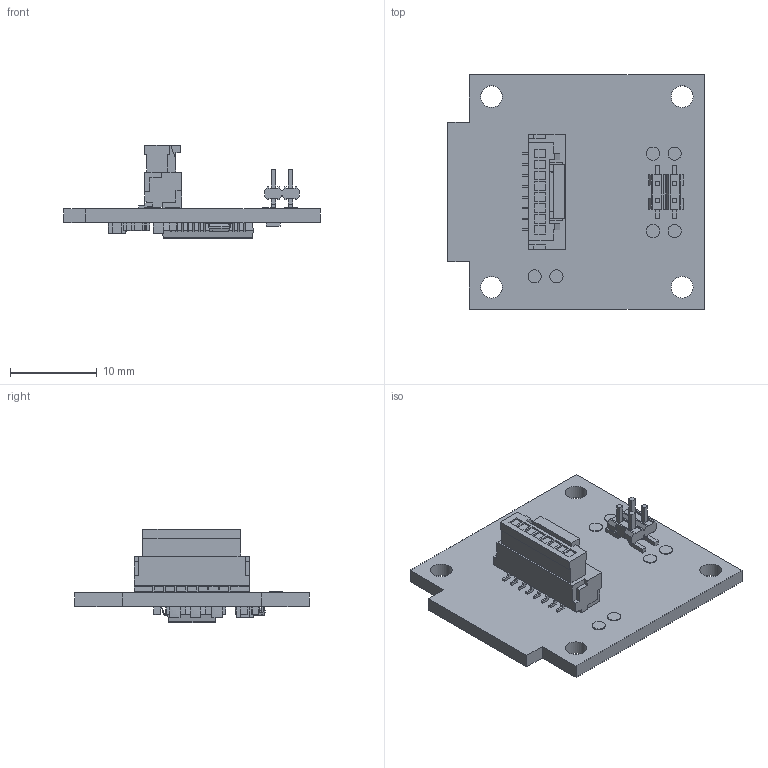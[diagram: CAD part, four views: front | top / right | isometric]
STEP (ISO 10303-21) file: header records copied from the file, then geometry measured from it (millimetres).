
FILE_DESCRIPTION(('Open CASCADE Model'),'2;1');
FILE_NAME('Open CASCADE Shape Model','2025-12-10T15:41:22',('Author'),( 'Open CASCADE'),'Open CASCADE STEP processor 7.5','Open CASCADE 7.5' ,'Unknown');
FILE_SCHEMA(('AUTOMOTIVE_DESIGN { 1 0 10303 214 1 1 1 1 }'));
Length unit declared in the file: millimetre
Products named in the file (70): PCB; Board; Open CASCADE STEP translator 7.5 1.1.1; TPT101; TP-60mil; TPT100; J100; 57202f5102alf; CN2; BM08B-GHS-TBT + GHR-08V-S; bm08b-ghs-tbt; GHR-08V-S; R101; cr0603; C114; CAPC1608X09; C113; C112; C111; SMD_Capacitors_0805_T1e25; C110; C109; C108; C106; U101; IC-SSOP28; IC-SSOP28-AM256_ASM; PADRAO_LINEAR2_18_; PADRAO_LINEAR2_12_; PADRAO_LINEAR2_9_; PADRAO_LINEAR2_19_; PADRAO_LINEAR2_7_; PADRAO_LINEAR2_13_; PADRAO_LINEAR2_22_; PADRAO_LINEAR2_23_; CUT-EXTRUDE1; PADRAO_LINEAR2_10_; PADRAO_LINEAR2_17_; PADRAO_LINEAR2_11_; PADRAO_LINEAR2_14_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
Assembly tree (87 placements, depth 5):
  PCB
    Board
      Open CASCADE STEP translator 7.5 1.1.1
    TPT101
      TP-60mil
    TPT100
      TP-60mil
    J100
      57202f5102alf
    CN2
      BM08B-GHS-TBT + GHR-08V-S
        bm08b-ghs-tbt
        GHR-08V-S
    R101
      cr0603
    C114
      CAPC1608X09
    C113
      CAPC1608X09
    C112
      CAPC1608X09
    C111
      SMD_Capacitors_0805_T1e25
    C110
      SMD_Capacitors_0805_T1e25
    C109
      CAPC1608X09
    C108
      CAPC1608X09
    C106
      CAPC1608X09
    U101
      IC-SSOP28
        IC-SSOP28-AM256_ASM
          PADRAO_LINEAR2_18_
          PADRAO_LINEAR2_12_
          PADRAO_LINEAR2_9_
          PADRAO_LINEAR2_19_
          PADRAO_LINEAR2_7_
          PADRAO_LINEAR2_13_
          PADRAO_LINEAR2_22_
          PADRAO_LINEAR2_23_
          CUT-EXTRUDE1
          PADRAO_LINEAR2_10_
          PADRAO_LINEAR2_17_
          PADRAO_LINEAR2_11_
          PADRAO_LINEAR2_14_
          PADRAO_LINEAR2_15_
          PADRAO_LINEAR2_16_
          EXTRUSAO3_1_
          EXTRUSAO3_2_
          PADRAO_LINEAR2_4_
          PADRAO_LINEAR2_5_
          EXTRUSAO2
          PADRAO_LINEAR2_6_
          PADRAO_LINEAR2_3_
          PADRAO_LINEAR2_2_
          PADRAO_LINEAR2_21_
          PADRAO_LINEAR2_24_
          PADRAO_LINEAR2_25_
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Bounding box: 29.5 x 27 x 10.79 mm (x, y, z)
Volume: 1647.9 mm3; surface area: 3110.5 mm2
Topology: 65 solids, 65 shells, 1665 faces, 4087 edges, 2472 vertices
Faces by surface type: plane 1046, cylinder 459, bspline 160
Full cylindrical faces by diameter (mm): 0.35 x1, 1.524 x6, 2.5 x4
Entity records: 39356 total; most frequent: CARTESIAN_POINT 6052, ORIENTED_EDGE 5368, DIRECTION 5328, EDGE_CURVE 2684, LINE 2228, VECTOR 2228, VERTEX_POINT 1742, AXIS2_PLACEMENT_3D 1550
